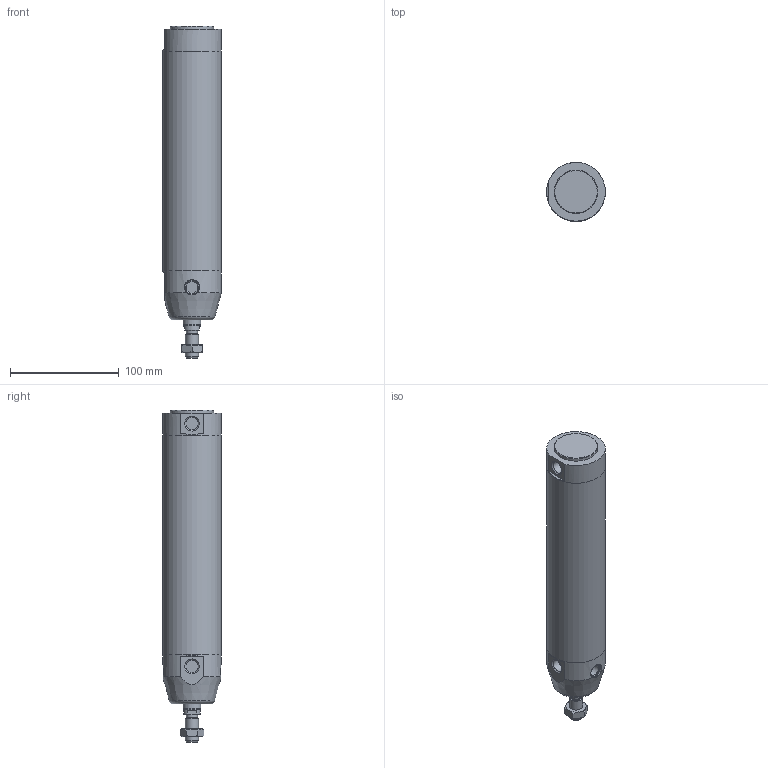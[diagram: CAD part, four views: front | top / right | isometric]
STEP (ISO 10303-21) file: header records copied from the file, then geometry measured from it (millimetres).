
FILE_DESCRIPTION(/* description */ (''),/* implementation_level */ '2;1');
FILE_NAME(/* name */ 'I:\Area Tecnica\Documenti\A-Manieri\_Inventor\12X\12X#E_###_####_#_#\12XAE_050_0160_#_#.stp',/* time_stamp */ '2015-05-08T13:40:30+02:00',/* author */ ('maniean1'),/* organization */ ('Pneumax S.p.A.'),/* preprocessor_version */ 'ST-DEVELOPER v15.2',/* originating_system */ 'Autodesk Inventor 2014',/* authorisation */ '');
FILE_SCHEMA (('AUTOMOTIVE_DESIGN { 1 0 10303 214 3 1 1 }'));
Length unit declared in the file: millimetre
Products named in the file (6): C1250_619-0160; 12X50_622; S12X50_0160; 12X_50_11; 12X50_611; 12XAE_050_0160_#_#
Bounding box: 54 x 54 x 305 mm (x, y, z)
Volume: 323145.3 mm3; surface area: 111902.2 mm2
Topology: 5 solids, 5 shells, 65 faces, 132 edges, 84 vertices
Faces by surface type: plane 33, cylinder 18, cone 13, torus 1
Full cylindrical faces by diameter (mm): 10.2 x1, 10.9 x2, 11.4 x2, 12 x2, 14 x1, 14.1 x2, 15.6 x1, 16 x1, 40 x1, 50 x2, 54 x3
Entity records: 1691 total; most frequent: CARTESIAN_POINT 368, DIRECTION 279, ORIENTED_EDGE 190, AXIS2_PLACEMENT_3D 129, EDGE_LOOP 108, EDGE_CURVE 95, VERTEX_POINT 77, ADVANCED_FACE 65
